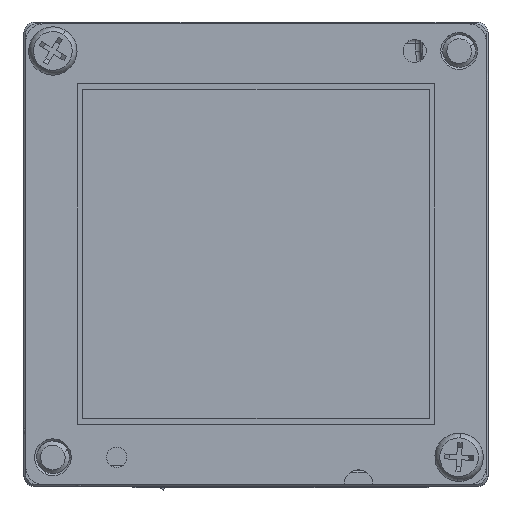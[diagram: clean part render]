
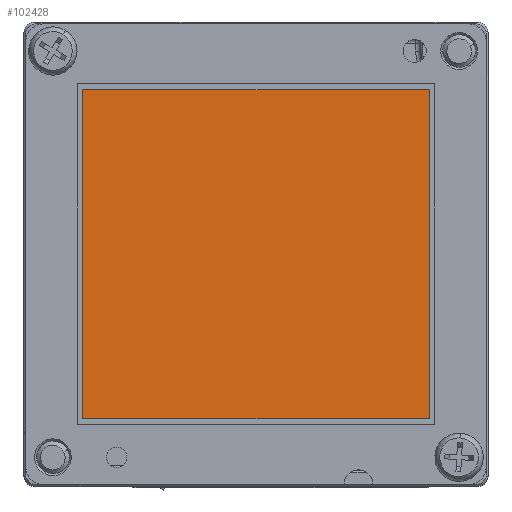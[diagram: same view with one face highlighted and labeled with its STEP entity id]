
A CAD part, top view. The second image highlights one B-rep face of the part: STEP entity #102428.
In plain terms, the highlighted planar face has unit normal (0, 0, 1).
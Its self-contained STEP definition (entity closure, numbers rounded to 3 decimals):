
#8226 = DIRECTION ( 'NONE',  ( 1., 0., 0. ) ) ;
#11971 = VERTEX_POINT ( 'NONE', #33719 ) ;
#13578 = LINE ( 'NONE', #117147, #69545 ) ;
#13984 = EDGE_CURVE ( 'NONE', #51948, #20798, #76750, .T. ) ;
#20798 = VERTEX_POINT ( 'NONE', #103972 ) ;
#25937 = CARTESIAN_POINT ( 'NONE',  ( 0., 0., 1.785 ) ) ;
#29625 = ORIENTED_EDGE ( 'NONE', *, *, #50324, .T. ) ;
#31717 = LINE ( 'NONE', #62753, #47019 ) ;
#33719 = CARTESIAN_POINT ( 'NONE',  ( -8.95, -8.5, 1.785 ) ) ;
#35307 = FACE_OUTER_BOUND ( 'NONE', #42227, .T. ) ;
#36948 = LINE ( 'NONE', #47541, #49789 ) ;
#42227 = EDGE_LOOP ( 'NONE', ( #93968, #111128, #75371, #29625 ) ) ;
#47019 = VECTOR ( 'NONE', #52785, 1000. ) ;
#47541 = CARTESIAN_POINT ( 'NONE',  ( -8.95, -8.5, 1.785 ) ) ;
#47879 = EDGE_CURVE ( 'NONE', #20798, #102939, #31717, .T. ) ;
#49789 = VECTOR ( 'NONE', #8226, 1000. ) ;
#50324 = EDGE_CURVE ( 'NONE', #102939, #11971, #13578, .T. ) ;
#51948 = VERTEX_POINT ( 'NONE', #91433 ) ;
#52785 = DIRECTION ( 'NONE',  ( -1., 0., 0. ) ) ;
#62753 = CARTESIAN_POINT ( 'NONE',  ( -8.95, 8.5, 1.785 ) ) ;
#67385 = DIRECTION ( 'NONE',  ( 0., 1., 0. ) ) ;
#69545 = VECTOR ( 'NONE', #70355, 1000. ) ;
#70355 = DIRECTION ( 'NONE',  ( 0., -1., 0. ) ) ;
#73359 = PLANE ( 'NONE',  #97349 ) ;
#73970 = DIRECTION ( 'NONE',  ( 1., 0., 0. ) ) ;
#75371 = ORIENTED_EDGE ( 'NONE', *, *, #47879, .T. ) ;
#76750 = LINE ( 'NONE', #114784, #84168 ) ;
#84168 = VECTOR ( 'NONE', #67385, 1000. ) ;
#84401 = CARTESIAN_POINT ( 'NONE',  ( -8.95, 8.5, 1.785 ) ) ;
#91433 = CARTESIAN_POINT ( 'NONE',  ( 8.95, -8.5, 1.785 ) ) ;
#93968 = ORIENTED_EDGE ( 'NONE', *, *, #103848, .T. ) ;
#97349 = AXIS2_PLACEMENT_3D ( 'NONE', #25937, #121385, #73970 ) ;
#102428 = ADVANCED_FACE ( 'NONE', ( #35307 ), #73359, .T. ) ;
#102939 = VERTEX_POINT ( 'NONE', #84401 ) ;
#103848 = EDGE_CURVE ( 'NONE', #11971, #51948, #36948, .T. ) ;
#103972 = CARTESIAN_POINT ( 'NONE',  ( 8.95, 8.5, 1.785 ) ) ;
#111128 = ORIENTED_EDGE ( 'NONE', *, *, #13984, .T. ) ;
#114784 = CARTESIAN_POINT ( 'NONE',  ( 8.95, -8.5, 1.785 ) ) ;
#117147 = CARTESIAN_POINT ( 'NONE',  ( -8.95, -8.5, 1.785 ) ) ;
#121385 = DIRECTION ( 'NONE',  ( 0., 0., 1. ) ) ;
